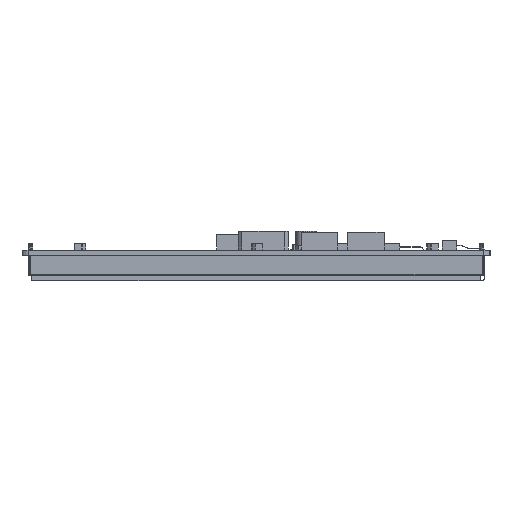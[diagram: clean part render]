
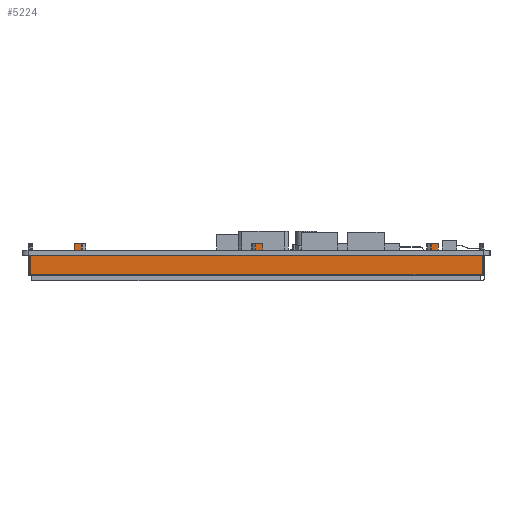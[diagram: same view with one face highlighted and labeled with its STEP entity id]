
A CAD part, left-side view. The second image highlights one B-rep face of the part: STEP entity #5224.
In plain terms, the highlighted planar face has unit normal (-1, 0, 0).
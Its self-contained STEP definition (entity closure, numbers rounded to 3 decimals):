
#5224=ADVANCED_FACE('',(#9902),#7408,.T.);
#7408=PLANE('',#58967);
#9902=FACE_OUTER_BOUND('',#12568,.T.);
#12568=EDGE_LOOP('',(#26082,#26083,#26084,#26085,#26086,#26087,#26088,#26089,
#26090,#26091,#26092,#26093,#26094,#26095,#26096,#26097,#26098,#26099,#26100,
#26101,#26102,#26103));
#26082=ORIENTED_EDGE('',*,*,#39182,.F.);
#26083=ORIENTED_EDGE('',*,*,#39183,.T.);
#26084=ORIENTED_EDGE('',*,*,#39184,.T.);
#26085=ORIENTED_EDGE('',*,*,#39185,.F.);
#26086=ORIENTED_EDGE('',*,*,#39186,.F.);
#26087=ORIENTED_EDGE('',*,*,#39187,.F.);
#26088=ORIENTED_EDGE('',*,*,#39188,.T.);
#26089=ORIENTED_EDGE('',*,*,#39189,.T.);
#26090=ORIENTED_EDGE('',*,*,#39190,.T.);
#26091=ORIENTED_EDGE('',*,*,#39179,.F.);
#26092=ORIENTED_EDGE('',*,*,#39191,.F.);
#26093=ORIENTED_EDGE('',*,*,#39192,.F.);
#26094=ORIENTED_EDGE('',*,*,#39193,.T.);
#26095=ORIENTED_EDGE('',*,*,#39194,.T.);
#26096=ORIENTED_EDGE('',*,*,#39195,.T.);
#26097=ORIENTED_EDGE('',*,*,#39175,.F.);
#26098=ORIENTED_EDGE('',*,*,#39196,.F.);
#26099=ORIENTED_EDGE('',*,*,#39197,.T.);
#26100=ORIENTED_EDGE('',*,*,#39198,.F.);
#26101=ORIENTED_EDGE('',*,*,#39199,.F.);
#26102=ORIENTED_EDGE('',*,*,#39200,.T.);
#26103=ORIENTED_EDGE('',*,*,#39173,.F.);
#32028=VERTEX_POINT('',#87371);
#32030=VERTEX_POINT('',#87375);
#32031=VERTEX_POINT('',#87379);
#32033=VERTEX_POINT('',#87382);
#32035=VERTEX_POINT('',#87388);
#32037=VERTEX_POINT('',#87391);
#32039=VERTEX_POINT('',#87397);
#32040=VERTEX_POINT('',#87399);
#32041=VERTEX_POINT('',#87401);
#32042=VERTEX_POINT('',#87403);
#32043=VERTEX_POINT('',#87405);
#32044=VERTEX_POINT('',#87407);
#32045=VERTEX_POINT('',#87409);
#32046=VERTEX_POINT('',#87411);
#32047=VERTEX_POINT('',#87414);
#32048=VERTEX_POINT('',#87416);
#32049=VERTEX_POINT('',#87418);
#32050=VERTEX_POINT('',#87420);
#32051=VERTEX_POINT('',#87423);
#32052=VERTEX_POINT('',#87425);
#32053=VERTEX_POINT('',#87427);
#32054=VERTEX_POINT('',#87429);
#39173=EDGE_CURVE('',#32030,#32028,#47669,.T.);
#39175=EDGE_CURVE('',#32031,#32033,#47671,.T.);
#39179=EDGE_CURVE('',#32035,#32037,#47675,.T.);
#39182=EDGE_CURVE('',#32039,#32030,#47678,.T.);
#39183=EDGE_CURVE('',#32039,#32040,#47679,.T.);
#39184=EDGE_CURVE('',#32040,#32041,#47680,.T.);
#39185=EDGE_CURVE('',#32042,#32041,#47681,.T.);
#39186=EDGE_CURVE('',#32043,#32042,#47682,.T.);
#39187=EDGE_CURVE('',#32044,#32043,#47683,.T.);
#39188=EDGE_CURVE('',#32044,#32045,#47684,.T.);
#39189=EDGE_CURVE('',#32045,#32046,#47685,.T.);
#39190=EDGE_CURVE('',#32046,#32037,#47686,.T.);
#39191=EDGE_CURVE('',#32047,#32035,#47687,.T.);
#39192=EDGE_CURVE('',#32048,#32047,#47688,.T.);
#39193=EDGE_CURVE('',#32048,#32049,#47689,.T.);
#39194=EDGE_CURVE('',#32049,#32050,#47690,.T.);
#39195=EDGE_CURVE('',#32050,#32033,#47691,.T.);
#39196=EDGE_CURVE('',#32051,#32031,#47692,.T.);
#39197=EDGE_CURVE('',#32051,#32052,#47693,.T.);
#39198=EDGE_CURVE('',#32053,#32052,#47694,.T.);
#39199=EDGE_CURVE('',#32054,#32053,#47695,.T.);
#39200=EDGE_CURVE('',#32054,#32028,#47696,.T.);
#47669=LINE('',#87376,#54317);
#47671=LINE('',#87381,#54319);
#47675=LINE('',#87390,#54323);
#47678=LINE('',#87396,#54326);
#47679=LINE('',#87398,#54327);
#47680=LINE('',#87400,#54328);
#47681=LINE('',#87402,#54329);
#47682=LINE('',#87404,#54330);
#47683=LINE('',#87406,#54331);
#47684=LINE('',#87408,#54332);
#47685=LINE('',#87410,#54333);
#47686=LINE('',#87412,#54334);
#47687=LINE('',#87413,#54335);
#47688=LINE('',#87415,#54336);
#47689=LINE('',#87417,#54337);
#47690=LINE('',#87419,#54338);
#47691=LINE('',#87421,#54339);
#47692=LINE('',#87422,#54340);
#47693=LINE('',#87424,#54341);
#47694=LINE('',#87426,#54342);
#47695=LINE('',#87428,#54343);
#47696=LINE('',#87430,#54344);
#54317=VECTOR('',#71532,1.);
#54319=VECTOR('',#71536,1.);
#54323=VECTOR('',#71542,1.);
#54326=VECTOR('',#71547,1.);
#54327=VECTOR('',#71548,1.);
#54328=VECTOR('',#71549,1.);
#54329=VECTOR('',#71550,1.);
#54330=VECTOR('',#71551,1.);
#54331=VECTOR('',#71552,1.);
#54332=VECTOR('',#71553,1.);
#54333=VECTOR('',#71554,1.);
#54334=VECTOR('',#71555,1.);
#54335=VECTOR('',#71556,1.);
#54336=VECTOR('',#71557,1.);
#54337=VECTOR('',#71558,1.);
#54338=VECTOR('',#71559,1.);
#54339=VECTOR('',#71560,1.);
#54340=VECTOR('',#71561,1.);
#54341=VECTOR('',#71562,1.);
#54342=VECTOR('',#71563,1.);
#54343=VECTOR('',#71564,1.);
#54344=VECTOR('',#71565,1.);
#58967=AXIS2_PLACEMENT_3D('',#87431,#71566,#71567);
#71532=DIRECTION('',(0.,-1.,0.));
#71536=DIRECTION('',(0.,-1.,0.));
#71542=DIRECTION('',(0.,-1.,0.));
#71547=DIRECTION('',(0.,0.,1.));
#71548=DIRECTION('',(0.,-1.,0.));
#71549=DIRECTION('',(0.,0.,1.));
#71550=DIRECTION('',(0.,-1.,0.));
#71551=DIRECTION('',(0.,0.,-1.));
#71552=DIRECTION('',(0.,-1.,0.));
#71553=DIRECTION('',(0.,0.,-1.));
#71554=DIRECTION('',(0.,-1.,0.));
#71555=DIRECTION('',(0.,0.,-1.));
#71556=DIRECTION('',(0.,0.,-1.));
#71557=DIRECTION('',(0.,-1.,0.));
#71558=DIRECTION('',(0.,0.,-1.));
#71559=DIRECTION('',(0.,-1.,0.));
#71560=DIRECTION('',(0.,0.,-1.));
#71561=DIRECTION('',(0.,0.,-1.));
#71562=DIRECTION('',(0.,-1.,0.));
#71563=DIRECTION('',(0.,0.,-1.));
#71564=DIRECTION('',(0.,-1.,0.));
#71565=DIRECTION('',(0.,0.,-1.));
#71566=DIRECTION('',(-1.,0.,0.));
#71567=DIRECTION('',(0.,-1.,0.));
#87371=CARTESIAN_POINT('',(1013.555,86.184,-1.6));
#87375=CARTESIAN_POINT('',(1013.555,100.243,-1.6));
#87376=CARTESIAN_POINT('',(1013.555,100.243,-1.6));
#87379=CARTESIAN_POINT('',(1013.555,84.184,-1.6));
#87381=CARTESIAN_POINT('',(1013.555,100.243,-1.6));
#87382=CARTESIAN_POINT('',(1013.555,28.708,-1.6));
#87388=CARTESIAN_POINT('',(1013.555,26.708,-1.6));
#87390=CARTESIAN_POINT('',(1013.555,100.243,-1.6));
#87391=CARTESIAN_POINT('',(1013.555,-26.802,-1.6));
#87396=CARTESIAN_POINT('',(1013.555,100.243,-8.1));
#87397=CARTESIAN_POINT('',(1013.555,100.243,-7.7));
#87398=CARTESIAN_POINT('',(1013.555,-42.757,-7.7));
#87399=CARTESIAN_POINT('',(1013.555,-42.757,-7.7));
#87400=CARTESIAN_POINT('',(1013.555,-42.757,-8.1));
#87401=CARTESIAN_POINT('',(1013.555,-42.757,-1.6));
#87402=CARTESIAN_POINT('',(1013.555,100.243,-1.6));
#87403=CARTESIAN_POINT('',(1013.555,-28.802,-1.6));
#87404=CARTESIAN_POINT('',(1013.555,-28.802,2.));
#87405=CARTESIAN_POINT('',(1013.555,-28.802,2.));
#87406=CARTESIAN_POINT('',(1013.555,-26.575,2.));
#87407=CARTESIAN_POINT('',(1013.555,-26.575,2.));
#87408=CARTESIAN_POINT('',(1013.555,-26.575,2.));
#87409=CARTESIAN_POINT('',(1013.555,-26.575,0.));
#87410=CARTESIAN_POINT('',(1013.555,-26.575,0.));
#87411=CARTESIAN_POINT('',(1013.555,-26.802,0.));
#87412=CARTESIAN_POINT('',(1013.555,-26.802,0.));
#87413=CARTESIAN_POINT('',(1013.555,26.708,0.));
#87414=CARTESIAN_POINT('',(1013.555,26.708,2.));
#87415=CARTESIAN_POINT('',(1013.555,28.935,2.));
#87416=CARTESIAN_POINT('',(1013.555,28.935,2.));
#87417=CARTESIAN_POINT('',(1013.555,28.935,2.));
#87418=CARTESIAN_POINT('',(1013.555,28.935,0.));
#87419=CARTESIAN_POINT('',(1013.555,28.935,0.));
#87420=CARTESIAN_POINT('',(1013.555,28.708,0.));
#87421=CARTESIAN_POINT('',(1013.555,28.708,0.));
#87422=CARTESIAN_POINT('',(1013.555,84.184,0.));
#87423=CARTESIAN_POINT('',(1013.555,84.184,0.));
#87424=CARTESIAN_POINT('',(1013.555,86.184,0.));
#87425=CARTESIAN_POINT('',(1013.555,83.957,0.));
#87426=CARTESIAN_POINT('',(1013.555,83.957,2.));
#87427=CARTESIAN_POINT('',(1013.555,83.957,2.));
#87428=CARTESIAN_POINT('',(1013.555,86.184,2.));
#87429=CARTESIAN_POINT('',(1013.555,86.184,2.));
#87430=CARTESIAN_POINT('',(1013.555,86.184,0.));
#87431=CARTESIAN_POINT('',(1013.555,100.243,-8.1));
